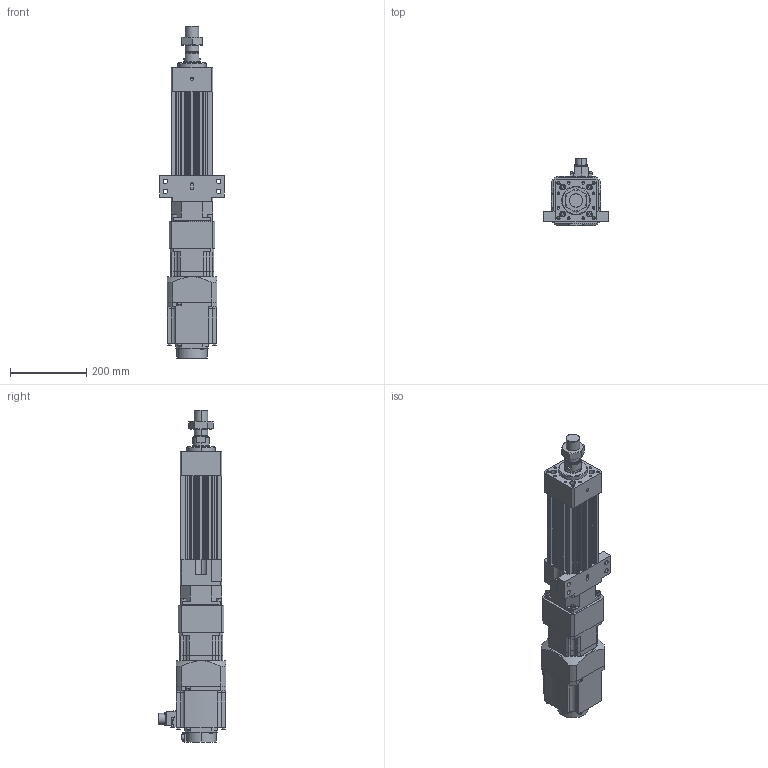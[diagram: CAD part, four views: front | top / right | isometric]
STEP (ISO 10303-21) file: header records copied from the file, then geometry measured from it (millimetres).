
FILE_DESCRIPTION (( 'STEP AP203' ), '1' );
FILE_NAME ('HES110NS(HS)-S050-W015G00-M-FFC.STEP', '2023-01-28T04:31:38', ( 'tms' ), ( '' ), 'SwSTEP 2.0', 'SolidWorks 2013', '' );
FILE_SCHEMA (( 'CONFIG_CONTROL_DESIGN' ));
Length unit declared in the file: millimetre
Products named in the file (8): HES110NS(HS)-S050-W015G00-M-FFC; P0401400706; HES110 ROD M ST050; AB115-003[HG-SR152]; HES110-S050-G120-FFC; M36X1.5P; HG-SR152; AB1151
Assembly tree (7 placements, depth 3):
  HES110NS(HS)-S050-W015G00-M-FFC
    HES110-S050-G120-FFC
    HES110 ROD M ST050
    M36X1.5P
    AB115-003[HG-SR152]
      AB1151
      P0401400706
    HG-SR152
Bounding box: 170 x 177.49 x 871.5 mm (x, y, z)
Volume: 5688087.6 mm3; surface area: 744538.9 mm2
Topology: 4 solids, 15 shells, 1222 faces, 3083 edges, 1988 vertices
Faces by surface type: plane 557, cylinder 549, cone 104, bspline 8, torus 4
Entity records: 38313 total; most frequent: CARTESIAN_POINT 7246, DIRECTION 6648, ORIENTED_EDGE 6070, EDGE_CURVE 3045, AXIS2_PLACEMENT_3D 2450, VERTEX_POINT 1988, LINE 1748, VECTOR 1748
